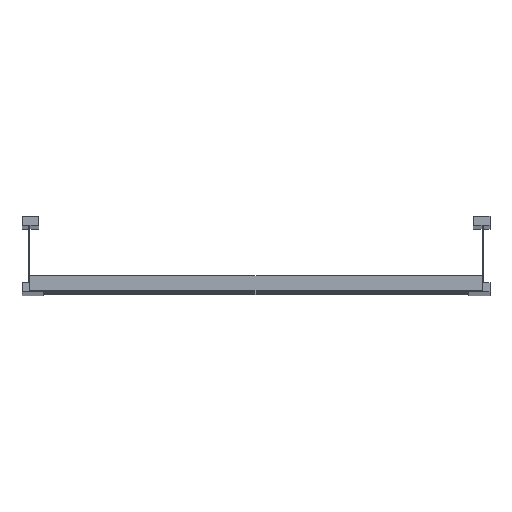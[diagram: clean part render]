
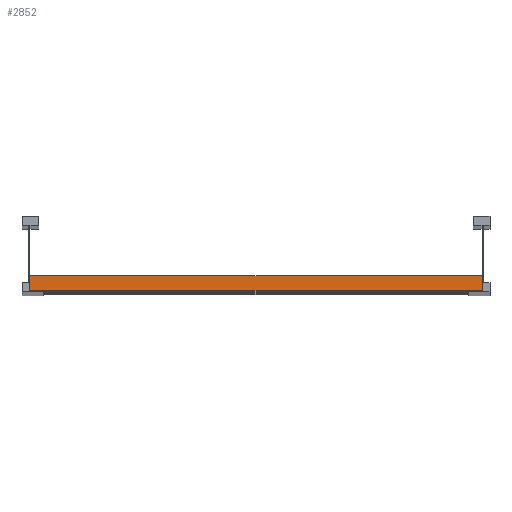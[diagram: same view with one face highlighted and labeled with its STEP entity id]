
A CAD part, top view. The second image highlights one B-rep face of the part: STEP entity #2852.
In plain terms, the highlighted planar face has unit normal (0, 0, 1).
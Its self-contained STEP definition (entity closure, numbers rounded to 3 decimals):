
#167 = EDGE_LOOP ( 'NONE', ( #11202, #327, #9974, #8872 ) ) ;
#321 = VERTEX_POINT ( 'NONE', #8393 ) ;
#327 = ORIENTED_EDGE ( 'NONE', *, *, #4545, .F. ) ;
#342 = CARTESIAN_POINT ( 'NONE',  ( 298.5, 20., 20.25 ) ) ;
#1441 = CARTESIAN_POINT ( 'NONE',  ( 298.5, 20., 20.25 ) ) ;
#1488 = EDGE_CURVE ( 'NONE', #5969, #9564, #4961, .T. ) ;
#2852 = ADVANCED_FACE ( 'NONE', ( #3923 ), #6403, .F. ) ;
#2913 = CARTESIAN_POINT ( 'NONE',  ( 298.5, 0., 20.25 ) ) ;
#2923 = VECTOR ( 'NONE', #2985, 1000. ) ;
#2985 = DIRECTION ( 'NONE',  ( 0., -1., 0. ) ) ;
#3629 = EDGE_CURVE ( 'NONE', #9866, #5969, #4763, .T. ) ;
#3923 = FACE_OUTER_BOUND ( 'NONE', #167, .T. ) ;
#3934 = AXIS2_PLACEMENT_3D ( 'NONE', #1441, #8622, #11143 ) ;
#4307 = VECTOR ( 'NONE', #6608, 1000. ) ;
#4545 = EDGE_CURVE ( 'NONE', #321, #9564, #10962, .T. ) ;
#4763 = LINE ( 'NONE', #342, #8080 ) ;
#4961 = LINE ( 'NONE', #6723, #4307 ) ;
#5759 = CARTESIAN_POINT ( 'NONE',  ( 298.5, 20., 20.25 ) ) ;
#5776 = VECTOR ( 'NONE', #6393, 1000. ) ;
#5795 = CARTESIAN_POINT ( 'NONE',  ( -298.5, 20., 20.25 ) ) ;
#5969 = VERTEX_POINT ( 'NONE', #5795 ) ;
#6393 = DIRECTION ( 'NONE',  ( -1., 0., 0. ) ) ;
#6403 = PLANE ( 'NONE',  #3934 ) ;
#6466 = LINE ( 'NONE', #5759, #2923 ) ;
#6608 = DIRECTION ( 'NONE',  ( 0., -1., 0. ) ) ;
#6723 = CARTESIAN_POINT ( 'NONE',  ( -298.5, 20., 20.25 ) ) ;
#7101 = CARTESIAN_POINT ( 'NONE',  ( -298.5, 0., 20.25 ) ) ;
#7791 = CARTESIAN_POINT ( 'NONE',  ( 298.5, 20., 20.25 ) ) ;
#8080 = VECTOR ( 'NONE', #10118, 1000. ) ;
#8393 = CARTESIAN_POINT ( 'NONE',  ( 298.5, 0., 20.25 ) ) ;
#8440 = EDGE_CURVE ( 'NONE', #9866, #321, #6466, .T. ) ;
#8622 = DIRECTION ( 'NONE',  ( 0., 0., -1. ) ) ;
#8872 = ORIENTED_EDGE ( 'NONE', *, *, #3629, .T. ) ;
#9564 = VERTEX_POINT ( 'NONE', #7101 ) ;
#9866 = VERTEX_POINT ( 'NONE', #7791 ) ;
#9974 = ORIENTED_EDGE ( 'NONE', *, *, #8440, .F. ) ;
#10118 = DIRECTION ( 'NONE',  ( -1., 0., 0. ) ) ;
#10962 = LINE ( 'NONE', #2913, #5776 ) ;
#11143 = DIRECTION ( 'NONE',  ( 0., 1., 0. ) ) ;
#11202 = ORIENTED_EDGE ( 'NONE', *, *, #1488, .T. ) ;
